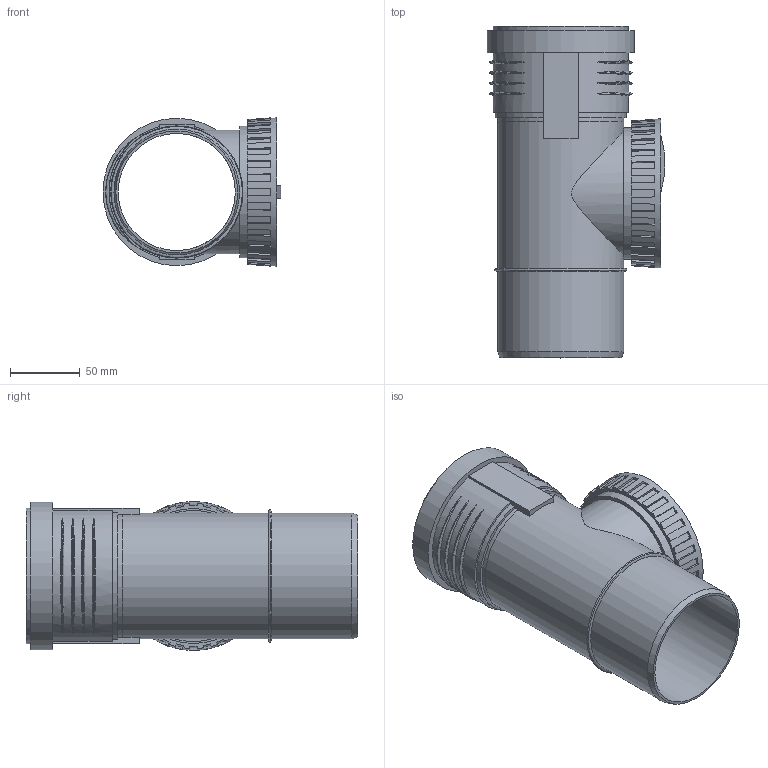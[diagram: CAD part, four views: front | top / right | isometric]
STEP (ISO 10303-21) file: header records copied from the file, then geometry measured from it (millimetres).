
FILE_DESCRIPTION(/* description */ (''),/* implementation_level */ '2;1');
FILE_NAME(/* name */ 'Z:\Geberit\Export\NewStep\390427.stp',/* time_stamp */ '2014-04-02T08:12:53+02:00',/* author */ ('ML'),/* organization */ (''),/* preprocessor_version */ 'ST-DEVELOPER v15.2',/* originating_system */ 'Autodesk Inventor 2014',/* authorisation */ '');
FILE_SCHEMA (('AUTOMOTIVE_DESIGN { 1 0 10303 214 3 1 1 }'));
Length unit declared in the file: millimetre
Products named in the file (4): 861481; 861403; 861485; 390427
Bounding box: 127.64 x 238 x 107 mm (x, y, z)
Volume: 322608.4 mm3; surface area: 201961.1 mm2
Topology: 3 solids, 3 shells, 217 faces, 587 edges, 393 vertices
Faces by surface type: plane 158, torus 27, cylinder 22, cone 10
Full cylindrical faces by diameter (mm): 83.5 x1, 84 x1, 84.2 x1, 90.2 x3, 91.2 x2, 94.17 x1, 97.2 x1, 99.8 x1, 105.8 x1
Entity records: 7757 total; most frequent: CARTESIAN_POINT 2259, ORIENTED_EDGE 1130, DIRECTION 1022, EDGE_CURVE 563, VERTEX_POINT 390, AXIS2_PLACEMENT_3D 361, LINE 300, VECTOR 300
